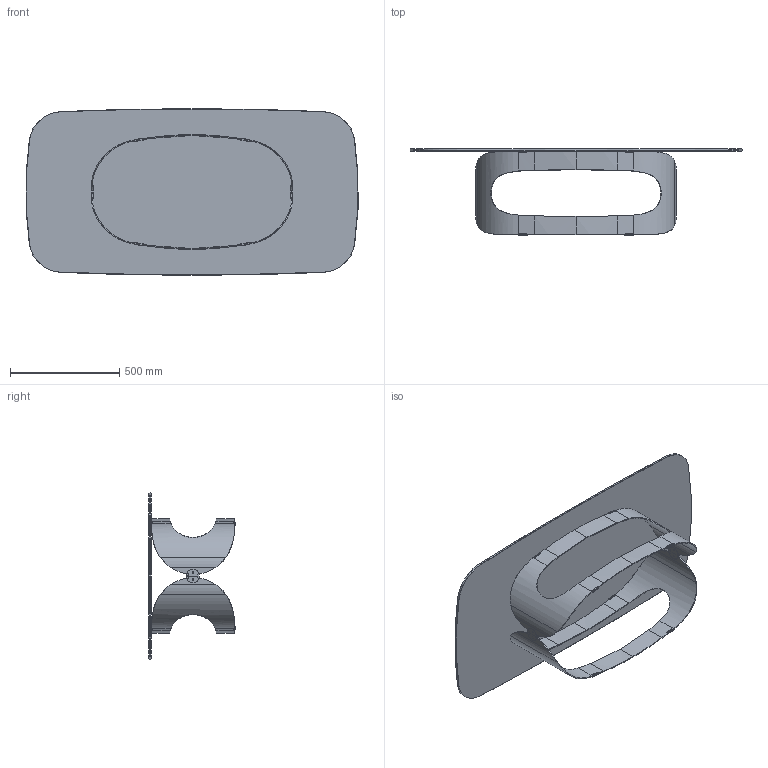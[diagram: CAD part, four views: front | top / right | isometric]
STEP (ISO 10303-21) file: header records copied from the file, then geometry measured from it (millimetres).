
FILE_DESCRIPTION (( 'STEP AP203' ), '1' );
FILE_NAME ('PW80G_Polifemo Low_152x76x39_Cristallo Sag..STEP', '2024-09-09T06:00:28', ( '' ), ( '' ), 'SwSTEP 2.0', 'SolidWorks 2022', '' );
FILE_SCHEMA (( 'CONFIG_CONTROL_DESIGN' ));
Length unit declared in the file: millimetre
Products named in the file (7): POLW00001-00-POLIFEMO LOW BASE METALLO GREZZO_Saldato; PW80G_Polifemo Low_152x76x39_Cristallo Sag.; PLLFCR000-00-POLIFEMO LOW FREGIO CROMATO NERO; PVC profilo Polifemo 9x8; C80-01-PIANO CRISTALLO TEMP 152x76 cm SAG; PLLFCR000_B-00-POLIFEMO LOW FREGIO CROMATO NERO; PLLFCR000_A-00-POLIFEMO LOW FREGIO CROMATO NERO
Assembly tree (15 placements, depth 3):
  PW80G_Polifemo Low_152x76x39_Cristallo Sag.
    POLW00001-00-POLIFEMO LOW BASE METALLO GREZZO_Saldato
    PVC profilo Polifemo 9x8  x8
    C80-01-PIANO CRISTALLO TEMP 152x76 cm SAG
    PLLFCR000-00-POLIFEMO LOW FREGIO CROMATO NERO  x2
      PLLFCR000_A-00-POLIFEMO LOW FREGIO CROMATO NERO
      PLLFCR000_B-00-POLIFEMO LOW FREGIO CROMATO NERO
Bounding box: 1516.13 x 393.81 x 760 mm (x, y, z)
Volume: 13144830.2 mm3; surface area: 3357491 mm2
Topology: 17 solids, 17 shells, 369 faces, 900 edges, 559 vertices
Faces by surface type: cylinder 139, plane 112, bspline 96, cone 22
Entity records: 17440 total; most frequent: CARTESIAN_POINT 11524, ORIENTED_EDGE 1188, DIRECTION 743, EDGE_CURVE 594, VERTEX_POINT 358, B_SPLINE_CURVE_WITH_KNOTS 304, AXIS2_PLACEMENT_3D 285, EDGE_LOOP 254
